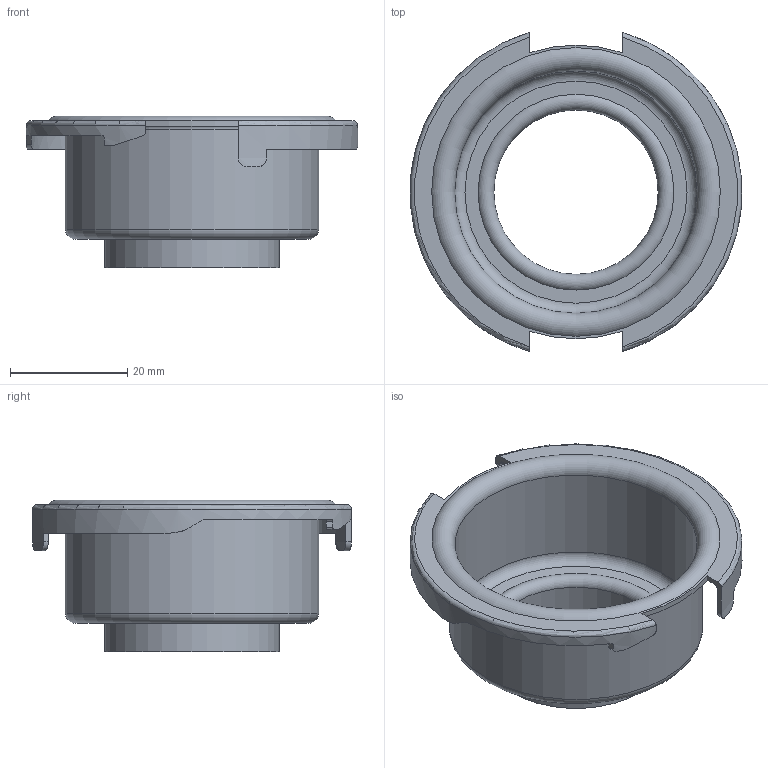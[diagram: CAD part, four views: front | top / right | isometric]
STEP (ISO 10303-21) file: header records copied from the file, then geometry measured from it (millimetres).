
FILE_DESCRIPTION(/* description */ ('203 Brass Shell'),/* implementation_level */ '2;1');
FILE_NAME(/* name */ '203-BR.step',/* time_stamp */ '2026-05-08T10:52:05-05:00',/* author */ (''),/* organization */ (''),/* preprocessor_version */ 'ST-DEVELOPER v20.1',/* originating_system */ 'Autodesk Translation Framework v15.8.0.0',/* authorisation */ '');
FILE_SCHEMA (('AUTOMOTIVE_DESIGN { 1 0 10303 214 3 1 1 }'));
Length unit declared in the file: millimetre
Products named in the file (1): 203-BR
Bounding box: 56.58 x 54.34 x 25.8 mm (x, y, z)
Volume: 4849.5 mm3; surface area: 10608.9 mm2
Topology: 1 solids, 1 shells, 59 faces, 156 edges, 102 vertices
Faces by surface type: plane 25, cylinder 22, torus 10, bspline 2
Full cylindrical faces by diameter (mm): 28 x1, 29.829 x1, 41.34 x1, 43.169 x1
Entity records: 2227 total; most frequent: CARTESIAN_POINT 756, ORIENTED_EDGE 312, DIRECTION 288, EDGE_CURVE 156, AXIS2_PLACEMENT_3D 114, VERTEX_POINT 102, EDGE_LOOP 64, LINE 60
